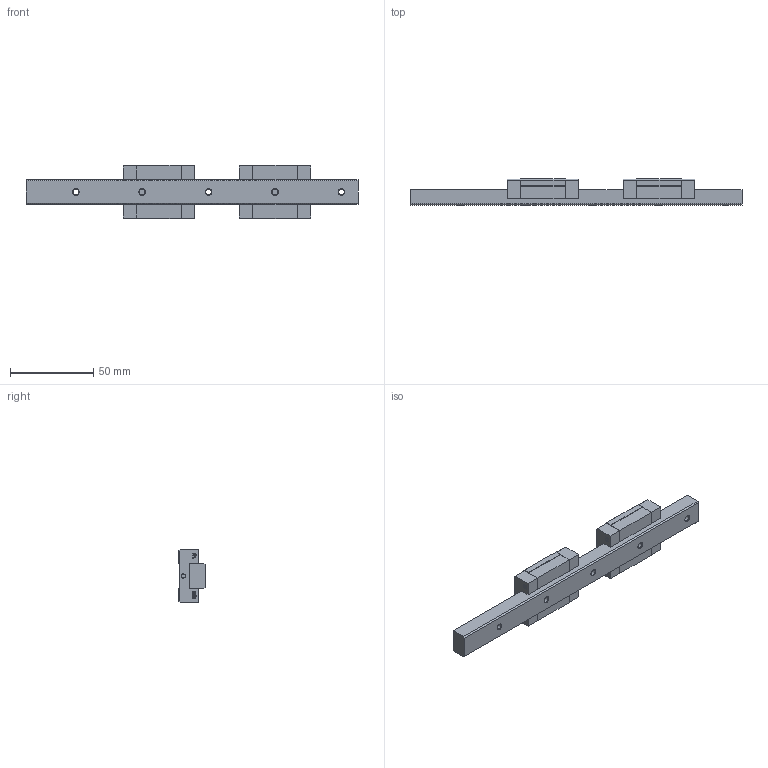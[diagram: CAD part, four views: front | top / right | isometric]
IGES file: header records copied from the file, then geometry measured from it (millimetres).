
Start section: SolidWorks IGES file using analytic representation for surfaces
Global section: file name: H:\直得科技CAD圖檔\3D目錄檔\MR-M Series\15MN.IGS; native system: SolidWorks 2005 by SolidWorks Corporation; preprocessor: SolidWorks 2005 by SolidWorks Corporation; author: cpc; date: 050331.122033; units: millimetre
Bounding box: 200 x 16 x 32 mm (x, y, z)
Surface area: 16449.7 mm2 (no closed solid volume)
Topology: 0 solids, 0 shells, 463 faces, 6092 edges, 6076 vertices
Faces by surface type: bspline 351, revolution 112
